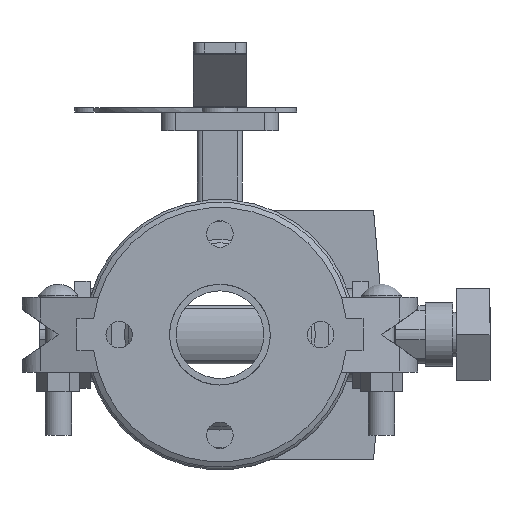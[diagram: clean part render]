
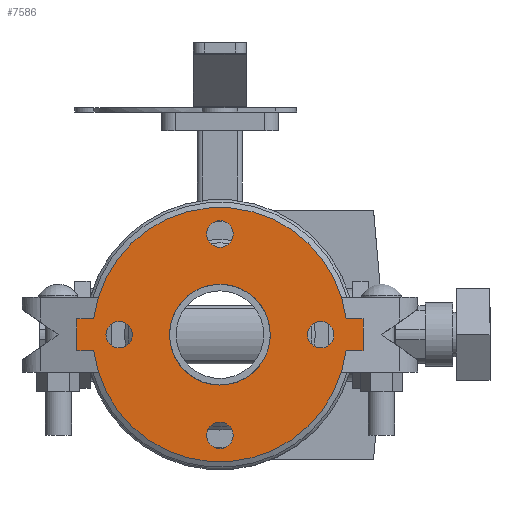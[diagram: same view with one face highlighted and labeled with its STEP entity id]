
A CAD part, front view. The second image highlights one B-rep face of the part: STEP entity #7586.
In plain terms, the highlighted planar face has unit normal (0, -1, 0) as drawn and (0, 0, -1) by its records, which use the part's own axes.
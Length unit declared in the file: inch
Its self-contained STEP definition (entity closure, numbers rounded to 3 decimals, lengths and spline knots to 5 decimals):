
#170=FACE_BOUND('',#932,.T.);
#171=FACE_BOUND('',#933,.T.);
#172=FACE_BOUND('',#934,.T.);
#173=FACE_BOUND('',#935,.T.);
#174=FACE_BOUND('',#936,.T.);
#262=PLANE('',#8215);
#510=FACE_OUTER_BOUND('',#931,.T.);
#931=EDGE_LOOP('',(#4856,#4857,#4858,#4859,#4860,#4861,#4862,#4863));
#932=EDGE_LOOP('',(#4864));
#933=EDGE_LOOP('',(#4865));
#934=EDGE_LOOP('',(#4866));
#935=EDGE_LOOP('',(#4867));
#936=EDGE_LOOP('',(#4868,#4869));
#1444=LINE('',#11508,#2023);
#1445=LINE('',#11510,#2024);
#1446=LINE('',#11512,#2025);
#1447=LINE('',#11516,#2026);
#1448=LINE('',#11518,#2027);
#1449=LINE('',#11519,#2028);
#2023=VECTOR('',#9136,0.3937);
#2024=VECTOR('',#9137,0.3937);
#2025=VECTOR('',#9138,0.3937);
#2026=VECTOR('',#9141,0.3937);
#2027=VECTOR('',#9142,0.3937);
#2028=VECTOR('',#9143,0.3937);
#2599=CIRCLE('',#8205,0.3125);
#2601=CIRCLE('',#8208,0.3125);
#2603=CIRCLE('',#8211,0.3125);
#2605=CIRCLE('',#8214,0.3125);
#2606=CIRCLE('',#8216,3.);
#2607=CIRCLE('',#8217,3.);
#2608=CIRCLE('',#8218,1.1875);
#2609=CIRCLE('',#8219,1.1875);
#3034=VERTEX_POINT('',#11482);
#3036=VERTEX_POINT('',#11488);
#3038=VERTEX_POINT('',#11494);
#3040=VERTEX_POINT('',#11500);
#3041=VERTEX_POINT('',#11504);
#3042=VERTEX_POINT('',#11505);
#3043=VERTEX_POINT('',#11507);
#3044=VERTEX_POINT('',#11509);
#3045=VERTEX_POINT('',#11511);
#3046=VERTEX_POINT('',#11513);
#3047=VERTEX_POINT('',#11515);
#3048=VERTEX_POINT('',#11517);
#3049=VERTEX_POINT('',#11520);
#3050=VERTEX_POINT('',#11521);
#3761=EDGE_CURVE('',#3034,#3034,#2599,.T.);
#3764=EDGE_CURVE('',#3036,#3036,#2601,.T.);
#3767=EDGE_CURVE('',#3038,#3038,#2603,.T.);
#3770=EDGE_CURVE('',#3040,#3040,#2605,.T.);
#3771=EDGE_CURVE('',#3041,#3042,#2606,.T.);
#3772=EDGE_CURVE('',#3042,#3043,#1444,.T.);
#3773=EDGE_CURVE('',#3043,#3044,#1445,.T.);
#3774=EDGE_CURVE('',#3044,#3045,#1446,.T.);
#3775=EDGE_CURVE('',#3045,#3046,#2607,.T.);
#3776=EDGE_CURVE('',#3046,#3047,#1447,.T.);
#3777=EDGE_CURVE('',#3047,#3048,#1448,.T.);
#3778=EDGE_CURVE('',#3048,#3041,#1449,.T.);
#3779=EDGE_CURVE('',#3049,#3050,#2608,.T.);
#3780=EDGE_CURVE('',#3050,#3049,#2609,.T.);
#4856=ORIENTED_EDGE('',*,*,#3771,.T.);
#4857=ORIENTED_EDGE('',*,*,#3772,.T.);
#4858=ORIENTED_EDGE('',*,*,#3773,.T.);
#4859=ORIENTED_EDGE('',*,*,#3774,.T.);
#4860=ORIENTED_EDGE('',*,*,#3775,.T.);
#4861=ORIENTED_EDGE('',*,*,#3776,.T.);
#4862=ORIENTED_EDGE('',*,*,#3777,.T.);
#4863=ORIENTED_EDGE('',*,*,#3778,.T.);
#4864=ORIENTED_EDGE('',*,*,#3761,.T.);
#4865=ORIENTED_EDGE('',*,*,#3764,.T.);
#4866=ORIENTED_EDGE('',*,*,#3767,.T.);
#4867=ORIENTED_EDGE('',*,*,#3770,.T.);
#4868=ORIENTED_EDGE('',*,*,#3779,.T.);
#4869=ORIENTED_EDGE('',*,*,#3780,.T.);
#7586=ADVANCED_FACE('',(#510,#170,#171,#172,#173,#174),#262,.T.);
#8205=AXIS2_PLACEMENT_3D('',#11484,#9109,#9110);
#8208=AXIS2_PLACEMENT_3D('',#11490,#9116,#9117);
#8211=AXIS2_PLACEMENT_3D('',#11496,#9123,#9124);
#8214=AXIS2_PLACEMENT_3D('',#11502,#9130,#9131);
#8215=AXIS2_PLACEMENT_3D('',#11503,#9132,#9133);
#8216=AXIS2_PLACEMENT_3D('',#11506,#9134,#9135);
#8217=AXIS2_PLACEMENT_3D('',#11514,#9139,#9140);
#8218=AXIS2_PLACEMENT_3D('',#11522,#9144,#9145);
#8219=AXIS2_PLACEMENT_3D('',#11523,#9146,#9147);
#9109=DIRECTION('center_axis',(0.,0.,1.));
#9110=DIRECTION('ref_axis',(0.,1.,0.));
#9116=DIRECTION('center_axis',(0.,0.,1.));
#9117=DIRECTION('ref_axis',(1.,0.,0.));
#9123=DIRECTION('center_axis',(0.,0.,1.));
#9124=DIRECTION('ref_axis',(0.,-1.,0.));
#9130=DIRECTION('center_axis',(0.,0.,1.));
#9131=DIRECTION('ref_axis',(-1.,0.,0.));
#9132=DIRECTION('center_axis',(0.,0.,-1.));
#9133=DIRECTION('ref_axis',(-1.,0.,0.));
#9134=DIRECTION('center_axis',(0.,0.,-1.));
#9135=DIRECTION('ref_axis',(-1.,0.,0.));
#9136=DIRECTION('',(0.,1.,0.));
#9137=DIRECTION('',(1.,0.,0.));
#9138=DIRECTION('',(0.,-1.,0.));
#9139=DIRECTION('center_axis',(0.,0.,-1.));
#9140=DIRECTION('ref_axis',(-1.,0.,0.));
#9141=DIRECTION('',(0.,-1.,0.));
#9142=DIRECTION('',(-1.,0.,0.));
#9143=DIRECTION('',(0.,1.,0.));
#9144=DIRECTION('center_axis',(0.,0.,1.));
#9145=DIRECTION('ref_axis',(-1.,0.,0.));
#9146=DIRECTION('center_axis',(0.,0.,1.));
#9147=DIRECTION('ref_axis',(-1.,0.,0.));
#11482=CARTESIAN_POINT('',(0.,2.0625,-0.375));
#11484=CARTESIAN_POINT('Origin',(0.,2.375,-0.375));
#11488=CARTESIAN_POINT('',(2.0625,0.,-0.375));
#11490=CARTESIAN_POINT('Origin',(2.375,0.,-0.375));
#11494=CARTESIAN_POINT('',(0.,-2.0625,-0.375));
#11496=CARTESIAN_POINT('Origin',(0.,-2.375,-0.375));
#11500=CARTESIAN_POINT('',(-2.0625,0.,-0.375));
#11502=CARTESIAN_POINT('Origin',(-2.375,0.,-0.375));
#11503=CARTESIAN_POINT('Origin',(0.,0.,-0.375));
#11504=CARTESIAN_POINT('',(-0.375,-2.97647,-0.375));
#11505=CARTESIAN_POINT('',(-0.375,2.97647,-0.375));
#11506=CARTESIAN_POINT('Origin',(0.,0.,-0.375));
#11507=CARTESIAN_POINT('',(-0.375,3.375,-0.375));
#11508=CARTESIAN_POINT('',(-0.375,-3.375,-0.375));
#11509=CARTESIAN_POINT('',(0.375,3.375,-0.375));
#11510=CARTESIAN_POINT('',(-0.375,3.375,-0.375));
#11511=CARTESIAN_POINT('',(0.375,2.97647,-0.375));
#11512=CARTESIAN_POINT('',(0.375,3.375,-0.375));
#11513=CARTESIAN_POINT('',(0.375,-2.97647,-0.375));
#11514=CARTESIAN_POINT('Origin',(0.,0.,-0.375));
#11515=CARTESIAN_POINT('',(0.375,-3.375,-0.375));
#11516=CARTESIAN_POINT('',(0.375,3.375,-0.375));
#11517=CARTESIAN_POINT('',(-0.375,-3.375,-0.375));
#11518=CARTESIAN_POINT('',(0.375,-3.375,-0.375));
#11519=CARTESIAN_POINT('',(-0.375,-3.375,-0.375));
#11520=CARTESIAN_POINT('',(0.375,1.12673,-0.375));
#11521=CARTESIAN_POINT('',(1.1875,0.,-0.375));
#11522=CARTESIAN_POINT('Origin',(0.,0.,-0.375));
#11523=CARTESIAN_POINT('Origin',(0.,0.,-0.375));
